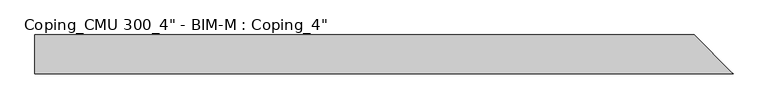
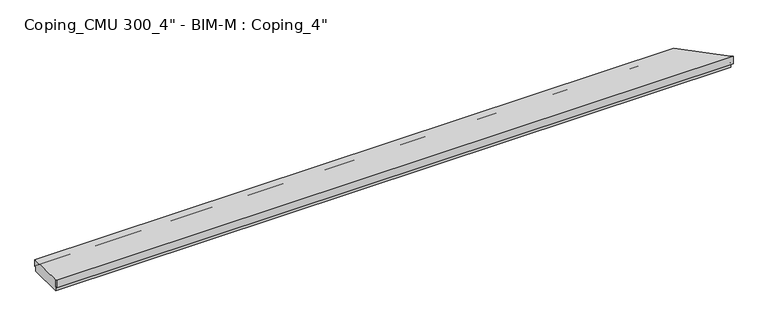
"""IFC4 building model written with IfcOpenShell, lengths in millimetres: proxy geometry."""

from ifc_helpers import new_model, si_unit, frame, origin, place, context, project, spatial, polyline, circle_curve, ellipse_curve, source, transform, mapped, element, save
from ifc_brep_helpers import plane_surface, revolved_surface, advanced_brep


def proxy_b5b03cb0(model_context):
    return source(origin(), model_context, "Body", "AdvancedBrep", [
        advanced_brep(
        [(7981.7463652, 0.0, 88.1977357), (7981.7463652, 0.0, 0.0), (7981.7463652, 0.0, -50.8), (7575.3463652, 406.4, -50.8), (7575.3463652, 406.4, 0.0), (7572.1713652, 409.575, 0.0), (7559.4713652, 422.275, 0.0), (7556.2963652, 425.45, 0.0), (7556.2963652, 425.45, 76.3727891), (8000.7963652, -19.05, 88.7272109), (8000.7963652, -19.05, 0.0), (7997.6213652, -15.875, 0.0), (7984.9213652, -3.175, 0.0), (0.0, 0.0, 88.1977357), (0.0, 0.0, 0.0), (0.0, -3.175, 0.0), (0.0, -15.875, 0.0), (0.0, -19.05, 0.0), (0.0, -19.05, 88.7272109), (0.0, 425.45, 76.3727891), (0.0, 425.45, 0.0), (0.0, 422.275, 0.0), (0.0, 409.575, 0.0), (0.0, 406.4, 0.0), (0.0, 406.4, -50.8), (0.0, 0.0, -50.8)],
        [
            (0, 1),
            (1, 2),
            (2, 3),
            (3, 4),
            (4, 5),
            (5, 6, ellipse_curve(frame((7565.8213652, 415.925, 0.0), z_axis=(-0.7071067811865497, -0.7071067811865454, 0.0), x_axis=(-0.7071067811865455, 0.7071067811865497, 0.0)), 8.9802561, 6.35)),
            (6, 7),
            (7, 8),
            (8, 0),
            (0, 9),
            (9, 10),
            (10, 11),
            (11, 12, ellipse_curve(frame((7991.2713652, -9.525, 0.0), z_axis=(-0.7071067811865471, -0.707106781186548, 0.0), x_axis=(-0.7071067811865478, 0.7071067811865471, 0.0)), 8.9802561, 6.35)),
            (12, 1),
            (13, 14),
            (14, 15),
            (15, 16, circle_curve(frame((0.0, -9.525, 0.0), z_axis=(1.0, 0.0, 0.0), x_axis=(0.0, -1.0, 0.0)), 6.35)),
            (16, 17),
            (17, 18),
            (18, 13),
            (13, 19),
            (19, 20),
            (20, 21),
            (21, 22, circle_curve(frame((0.0, 415.925, 0.0), z_axis=(1.0, 0.0, 0.0), x_axis=(0.0, -1.0, 0.0)), 6.35)),
            (22, 23),
            (23, 24),
            (24, 25),
            (25, 14),
            (8, 19),
            (18, 9),
            (17, 10),
            (16, 11),
            (15, 12),
            (14, 1),
            (5, 22),
            (21, 6),
            (4, 23),
            (7, 20),
            (25, 2),
            (24, 3),
        ],
        [
            plane_surface(frame((7353.1284367, 628.6179285, 304.8), z_axis=(0.7071067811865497, 0.7071067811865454, 0.0), x_axis=(0.0, 0.0, -1.0))),
            plane_surface(frame((7981.7463652, 0.0, 304.8), z_axis=(0.7071067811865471, 0.707106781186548, 0.0), x_axis=(0.0, 0.0, -1.0))),
            plane_surface(frame((0.0, -889.0, 304.8), z_axis=(-1.0, 0.0, 0.0), x_axis=(0.0, 0.0, -1.0))),
            plane_surface(frame((0.0, 0.0, 304.8), z_axis=(-1.0, 0.0, 0.0), x_axis=(0.0, 0.0, -1.0))),
            plane_surface(frame((8438.9463652, 425.45, 76.3727891), z_axis=(0.0, 0.027783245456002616, 0.9996139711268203), x_axis=(-1.0, 0.0, 0.0))),
            plane_surface(frame((8438.9463652, -19.05, 88.7272109), z_axis=(0.0, -1.0, 0.0), x_axis=(-1.0, 0.0, 0.0))),
            plane_surface(frame((8438.9463652, -19.05, 0.0), z_axis=(0.0, 0.0, -1.0), x_axis=(-1.0, 0.0, 0.0))),
            revolved_surface(polyline([(0.0, -15.875, 0.0), (7997.6213652, -15.875, 0.0)]), (8438.9463652, -9.525, 0.0), (-1.0, 0.0, 0.0)),
            plane_surface(frame((8438.9463652, -3.175, 0.0), z_axis=(0.0, 0.0, -1.0), x_axis=(-1.0, 0.0, 0.0))),
            revolved_surface(polyline([(0.0, 409.575, 0.0), (7572.1713652, 409.575, 0.0)]), (8438.9463652, 415.925, 0.0), (-1.0, 0.0, 0.0)),
            plane_surface(frame((8438.9463652, 406.4, 0.0), z_axis=(0.0, 0.0, -1.0), x_axis=(-1.0, 0.0, 0.0))),
            plane_surface(frame((8438.9463652, 425.45, 0.0), z_axis=(0.0, 1.0, 0.0), x_axis=(-1.0, 0.0, 0.0))),
            plane_surface(frame((8438.9463652, 0.0, 0.0), z_axis=(0.0, -1.0, 0.0), x_axis=(-1.0, 0.0, 0.0))),
            plane_surface(frame((8438.9463652, 0.0, -50.8), z_axis=(0.0, 0.0, -1.0), x_axis=(-1.0, 0.0, 0.0))),
            plane_surface(frame((8438.9463652, 406.4, -50.8), z_axis=(0.0, 1.0, 0.0), x_axis=(-1.0, 0.0, 0.0))),
            plane_surface(frame((8438.9463652, 422.275, 0.0), z_axis=(0.0, 0.0, -1.0), x_axis=(-1.0, 0.0, 0.0))),
        ],
        [
            (0, [[1, 2, 3, 4, 5, 6, 7, 8, 9]]),
            (1, [[-1, 10, 11, 12, 13, 14]]),
            (2, [[15, 16, 17, 18, 19, 20]]),
            (3, [[-15, 21, 22, 23, 24, 25, 26, 27, 28]]),
            (4, [[-9, 29, -21, -20, 30, -10]]),
            (5, [[-11, -30, -19, 31]]),
            (6, [[-12, -31, -18, 32]]),
            (7, [[-13, -32, -17, 33]]),
            (8, [[-14, -33, -16, 34]]),
            (9, [[-6, 35, -24, 36]]),
            (10, [[-5, 37, -25, -35]]),
            (11, [[-8, 38, -22, -29]]),
            (12, [[-2, -34, -28, 39]]),
            (13, [[-3, -39, -27, 40]]),
            (14, [[-4, -40, -26, -37]]),
            (15, [[-7, -36, -23, -38]]),
        ],
    ),
    ])


if __name__ == "__main__":
    model = new_model("IFC4")
    model_context = context("Model", 3, world=origin())
    ifc_project = project(units=[si_unit("LENGTHUNIT", "METRE", prefix="MILLI")], contexts=[model_context])
    site = spatial("IfcSite", under=ifc_project)
    building = spatial("IfcBuilding", under=site)
    placement = place(None, origin())
    proxy_shape = proxy_b5b03cb0(model_context)
    element("IfcBuildingElementProxy", 1, Name="Coping_CMU 300_4\" - BIM-M : Coping_4\"", ObjectType="Coping_CMU 300_4\" - BIM-M : Coping_4\"", at=placement, inside=building, context=model_context, shape_type="MappedRepresentation", body=[
        mapped(proxy_shape, transform((0.0, 0.0, 0.0), x_axis=(1.0, 0.0, 0.0), y_axis=(0.0, 1.0, 0.0), z_axis=(0.0, 0.0, 1.0))),
    ])
    save(model, "model.ifc")
